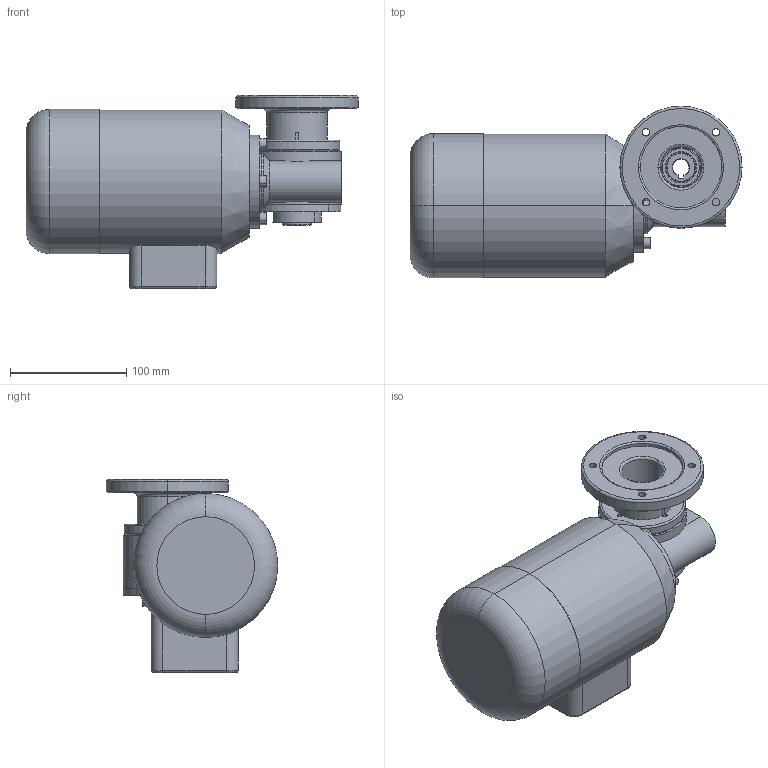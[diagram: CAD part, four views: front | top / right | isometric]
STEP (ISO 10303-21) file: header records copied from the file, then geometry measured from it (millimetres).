
FILE_DESCRIPTION (( 'STEP AP214' ), '1' );
FILE_NAME ('SN3BHFL_120W_180W_250W_B.STEP', '2021-03-16T13:31:40', ( '' ), ( '' ), 'SwSTEP 2.0', 'SolidWorks 2019', '' );
FILE_SCHEMA (( 'AUTOMOTIVE_DESIGN' ));
Length unit declared in the file: millimetre
Products named in the file (3): SN3BHFL_120W_180W_250W_B; SN3BHFL_120W_180W_250W_B_o_F_B; 03BH-F-007
Assembly tree (2 placements, depth 2):
  SN3BHFL_120W_180W_250W_B
    SN3BHFL_120W_180W_250W_B_o_F_B
    03BH-F-007
Bounding box: 285.5 x 147.5 x 166 mm (x, y, z)
Volume: 132116.1 mm3; surface area: 174748.3 mm2
Topology: 1 solids, 20 shells, 299 faces, 766 edges, 489 vertices
Faces by surface type: cylinder 118, plane 84, cone 64, torus 33
Entity records: 12097 total; most frequent: CARTESIAN_POINT 1872, DIRECTION 1730, ORIENTED_EDGE 1374, EDGE_CURVE 760, AXIS2_PLACEMENT_3D 695, VERTEX_POINT 489, CIRCLE 390, EDGE_LOOP 354
